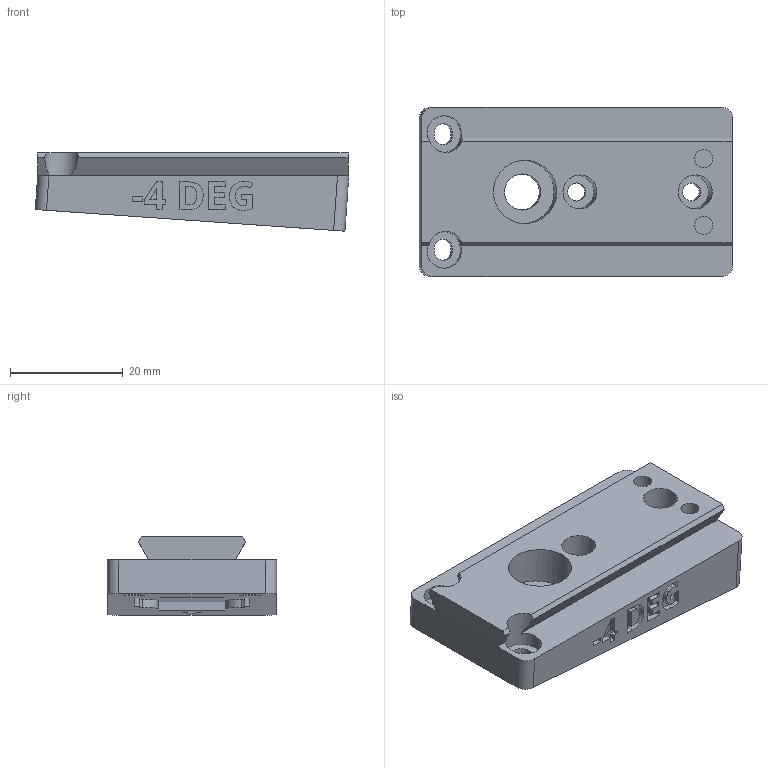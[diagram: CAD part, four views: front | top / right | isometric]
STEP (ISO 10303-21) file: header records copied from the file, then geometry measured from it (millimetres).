
FILE_DESCRIPTION(/* description */ ('STEP AP242 Edition 2','CAx-IF Rec.Pracs.---Representation and Presentation of Product Manufacturing Information (PMI)---4.0---2014-10-13','CAx-IF Rec.Pracs.---3D Tessellated Geometry---0.4---2014-09-14','2;1','CAx-IF Rec.Pracs.---User Defined Attributes---1.5---2016-08-15'),/* implementation_level */ '2;1');
FILE_NAME(/* name */ 'Camera Wedges - CAMERA MOUNTING WEDGE, NEG, -4 DEG',/* time_stamp */ '2026-07-08T20:36:52Z',/* author */ (''),/* organization */ (''),/* preprocessor_version */ 'ST-DEVELOPER v20',/* originating_system */ 'ONSHAPE BY PTC INC, 1.217',/* authorisation */ ' ');
FILE_SCHEMA (('AP242_MANAGED_MODEL_BASED_3D_ENGINEERING_MIM_LF { 1 0 10303 442 3 1 4 }'));
Length unit declared in the file: metre
Products named in the file (1): CAMERA MOUNTING WEDGE, NEG, -4 DEG
Bounding box: 55.55 x 30 x 13.88 mm (x, y, z)
Volume: 14286.2 mm3; surface area: 6575.3 mm2
Topology: 1 solids, 1 shells, 221 faces, 595 edges, 396 vertices
Faces by surface type: plane 151, cylinder 42, bspline 28
Full cylindrical faces by diameter (mm): 3.2 x4, 6 x2, 6.4 x1, 11.2 x1
Entity records: 6983 total; most frequent: CARTESIAN_POINT 1513, ORIENTED_EDGE 1174, DIRECTION 1015, EDGE_CURVE 587, LINE 435, VECTOR 435, VERTEX_POINT 396, AXIS2_PLACEMENT_3D 290
